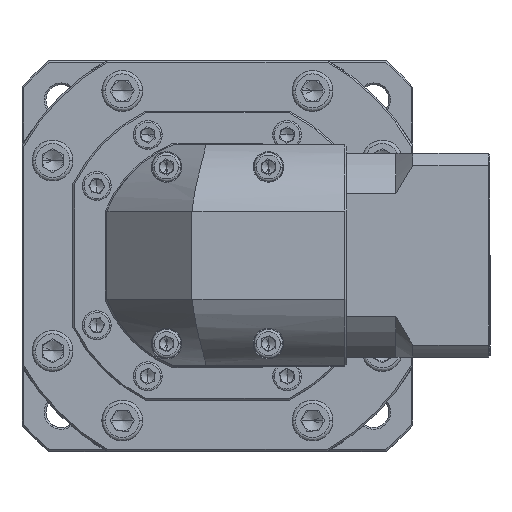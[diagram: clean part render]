
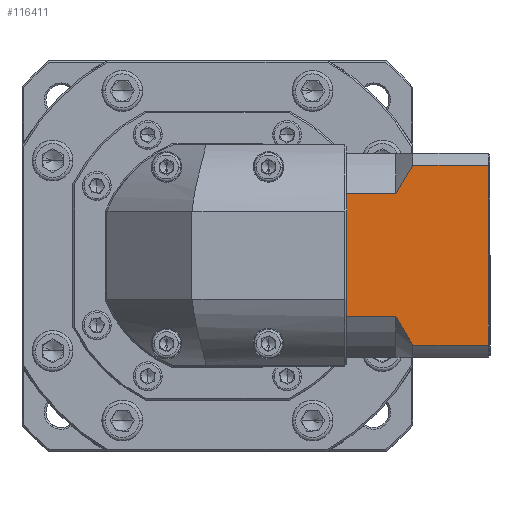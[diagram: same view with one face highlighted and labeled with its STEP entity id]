
A CAD part, top view. The second image highlights one B-rep face of the part: STEP entity #116411.
In plain terms, the highlighted planar face has unit normal (0, 0, 1).
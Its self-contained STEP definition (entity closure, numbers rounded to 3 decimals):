
#2512 = DIRECTION ( 'NONE',  ( -1., 0., 0. ) ) ;
#5296 = FACE_OUTER_BOUND ( 'NONE', #32493, .T. ) ;
#5521 = VECTOR ( 'NONE', #73298, 1000. ) ;
#8036 = ORIENTED_EDGE ( 'NONE', *, *, #105170, .T. ) ;
#8826 = VERTEX_POINT ( 'NONE', #136634 ) ;
#11072 = VERTEX_POINT ( 'NONE', #122505 ) ;
#11082 = DIRECTION ( 'NONE',  ( 1., 0., 0. ) ) ;
#11083 = B_SPLINE_CURVE_WITH_KNOTS ( 'NONE', 3,
 ( #66688, #43152, #44086, #110300, #65723, #86729 ),
 .UNSPECIFIED., .F., .F.,
 ( 4, 2, 4 ),
 ( 0.1, 0.104, 0.109 ),
 .UNSPECIFIED. ) ;
#14499 = LINE ( 'NONE', #63363, #51250 ) ;
#14572 = VECTOR ( 'NONE', #2512, 1000. ) ;
#15852 = CARTESIAN_POINT ( 'NONE',  ( 23.158, 24.462, 318.152 ) ) ;
#16142 = CARTESIAN_POINT ( 'NONE',  ( 19.057, 17.392, 318.152 ) ) ;
#16421 = AXIS2_PLACEMENT_3D ( 'NONE', #75697, #53529, #86393 ) ;
#16584 = VECTOR ( 'NONE', #62863, 1000. ) ;
#18911 = VECTOR ( 'NONE', #11082, 1000. ) ;
#20350 = VECTOR ( 'NONE', #93654, 1000. ) ;
#20926 = CARTESIAN_POINT ( 'NONE',  ( 19.057, 17.392, 318.152 ) ) ;
#26939 = VERTEX_POINT ( 'NONE', #119184 ) ;
#29404 = EDGE_CURVE ( 'NONE', #124784, #119489, #135546, .T. ) ;
#32053 = CARTESIAN_POINT ( 'NONE',  ( 4.557, 17.392, 318.152 ) ) ;
#32493 = EDGE_LOOP ( 'NONE', ( #38820, #34433, #128987, #95014, #48691, #96193, #8036, #143067, #80514, #82419 ) ) ;
#34433 = ORIENTED_EDGE ( 'NONE', *, *, #105563, .T. ) ;
#34648 = CARTESIAN_POINT ( 'NONE',  ( 4.557, -18.663, 318.152 ) ) ;
#36423 = VERTEX_POINT ( 'NONE', #102125 ) ;
#37441 = CARTESIAN_POINT ( 'NONE',  ( 22.284, 23.083, 318.152 ) ) ;
#38820 = ORIENTED_EDGE ( 'NONE', *, *, #138080, .F. ) ;
#39810 = LINE ( 'NONE', #123629, #60863 ) ;
#41126 = VECTOR ( 'NONE', #80920, 1000. ) ;
#41909 = B_SPLINE_CURVE_WITH_KNOTS ( 'NONE', 3,
 ( #72216, #15852, #37441, #92302, #82013, #58948 ),
 .UNSPECIFIED., .F., .F.,
 ( 4, 2, 4 ),
 ( 0.052, 0.057, 0.062 ),
 .UNSPECIFIED. ) ;
#43152 = CARTESIAN_POINT ( 'NONE',  ( 19.807, -20.12, 318.152 ) ) ;
#44086 = CARTESIAN_POINT ( 'NONE',  ( 20.608, -21.545, 318.152 ) ) ;
#45126 = DIRECTION ( 'NONE',  ( 0., 1., 0. ) ) ;
#46079 = EDGE_CURVE ( 'NONE', #124784, #26939, #11083, .T. ) ;
#46749 = EDGE_CURVE ( 'NONE', #36423, #119489, #111304, .T. ) ;
#48691 = ORIENTED_EDGE ( 'NONE', *, *, #63351, .F. ) ;
#51250 = VECTOR ( 'NONE', #98079, 1000. ) ;
#53529 = DIRECTION ( 'NONE',  ( 0., 0., -1. ) ) ;
#58948 = CARTESIAN_POINT ( 'NONE',  ( 19.057, 17.392, 318.152 ) ) ;
#60863 = VECTOR ( 'NONE', #45126, 1000. ) ;
#62863 = DIRECTION ( 'NONE',  ( 0., -1., 0. ) ) ;
#63351 = EDGE_CURVE ( 'NONE', #73396, #137080, #106485, .T. ) ;
#63363 = CARTESIAN_POINT ( 'NONE',  ( 4.557, 29.365, 318.152 ) ) ;
#65723 = CARTESIAN_POINT ( 'NONE',  ( 23.156, -25.73, 318.152 ) ) ;
#66546 = EDGE_CURVE ( 'NONE', #8826, #137080, #41909, .T. ) ;
#66688 = CARTESIAN_POINT ( 'NONE',  ( 19.057, -18.663, 318.152 ) ) ;
#71012 = CARTESIAN_POINT ( 'NONE',  ( 46.257, 25.822, 318.152 ) ) ;
#72216 = CARTESIAN_POINT ( 'NONE',  ( 24.057, 25.822, 318.152 ) ) ;
#73298 = DIRECTION ( 'NONE',  ( -1., 0., 0. ) ) ;
#73396 = VERTEX_POINT ( 'NONE', #32053 ) ;
#74741 = PLANE ( 'NONE',  #16421 ) ;
#75697 = CARTESIAN_POINT ( 'NONE',  ( 46.757, 29.365, 318.152 ) ) ;
#79767 = CARTESIAN_POINT ( 'NONE',  ( 19.057, -18.663, 318.152 ) ) ;
#80514 = ORIENTED_EDGE ( 'NONE', *, *, #29404, .F. ) ;
#80920 = DIRECTION ( 'NONE',  ( 0., -1., 0. ) ) ;
#82013 = CARTESIAN_POINT ( 'NONE',  ( 19.805, 18.844, 318.152 ) ) ;
#82419 = ORIENTED_EDGE ( 'NONE', *, *, #46079, .T. ) ;
#84925 = LINE ( 'NONE', #116801, #20350 ) ;
#86393 = DIRECTION ( 'NONE',  ( 1., 0., 0. ) ) ;
#86729 = CARTESIAN_POINT ( 'NONE',  ( 24.057, -27.093, 318.152 ) ) ;
#86870 = EDGE_CURVE ( 'NONE', #73396, #120012, #14499, .T. ) ;
#92302 = CARTESIAN_POINT ( 'NONE',  ( 20.609, 20.276, 318.152 ) ) ;
#92666 = CARTESIAN_POINT ( 'NONE',  ( 4.557, 29.365, 318.152 ) ) ;
#93654 = DIRECTION ( 'NONE',  ( 1., 0., 0. ) ) ;
#95014 = ORIENTED_EDGE ( 'NONE', *, *, #66546, .T. ) ;
#95717 = VERTEX_POINT ( 'NONE', #71012 ) ;
#96193 = ORIENTED_EDGE ( 'NONE', *, *, #86870, .T. ) ;
#98079 = DIRECTION ( 'NONE',  ( 0., -1., 0. ) ) ;
#102125 = CARTESIAN_POINT ( 'NONE',  ( 4.557, -17.672, 318.152 ) ) ;
#103932 = CARTESIAN_POINT ( 'NONE',  ( 19.057, -18.663, 318.152 ) ) ;
#105170 = EDGE_CURVE ( 'NONE', #120012, #36423, #128678, .T. ) ;
#105563 = EDGE_CURVE ( 'NONE', #11072, #95717, #39810, .T. ) ;
#106485 = LINE ( 'NONE', #20926, #18911 ) ;
#106598 = CARTESIAN_POINT ( 'NONE',  ( 19.057, -27.093, 318.152 ) ) ;
#110300 = CARTESIAN_POINT ( 'NONE',  ( 22.282, -24.35, 318.152 ) ) ;
#111304 = LINE ( 'NONE', #92666, #41126 ) ;
#116411 = ADVANCED_FACE ( 'NONE', ( #5296 ), #74741, .F. ) ;
#116801 = CARTESIAN_POINT ( 'NONE',  ( 19.057, 25.822, 318.152 ) ) ;
#119184 = CARTESIAN_POINT ( 'NONE',  ( 24.057, -27.093, 318.152 ) ) ;
#119489 = VERTEX_POINT ( 'NONE', #34648 ) ;
#120012 = VERTEX_POINT ( 'NONE', #130179 ) ;
#120755 = CARTESIAN_POINT ( 'NONE',  ( 4.557, 29.365, 318.152 ) ) ;
#122505 = CARTESIAN_POINT ( 'NONE',  ( 46.257, -27.093, 318.152 ) ) ;
#123629 = CARTESIAN_POINT ( 'NONE',  ( 46.257, 29.365, 318.152 ) ) ;
#124784 = VERTEX_POINT ( 'NONE', #79767 ) ;
#128678 = LINE ( 'NONE', #120755, #16584 ) ;
#128987 = ORIENTED_EDGE ( 'NONE', *, *, #141082, .F. ) ;
#130179 = CARTESIAN_POINT ( 'NONE',  ( 4.557, 16.401, 318.152 ) ) ;
#135546 = LINE ( 'NONE', #103932, #14572 ) ;
#136634 = CARTESIAN_POINT ( 'NONE',  ( 24.057, 25.822, 318.152 ) ) ;
#137080 = VERTEX_POINT ( 'NONE', #16142 ) ;
#138080 = EDGE_CURVE ( 'NONE', #11072, #26939, #140623, .T. ) ;
#140623 = LINE ( 'NONE', #106598, #5521 ) ;
#141082 = EDGE_CURVE ( 'NONE', #8826, #95717, #84925, .T. ) ;
#143067 = ORIENTED_EDGE ( 'NONE', *, *, #46749, .T. ) ;
